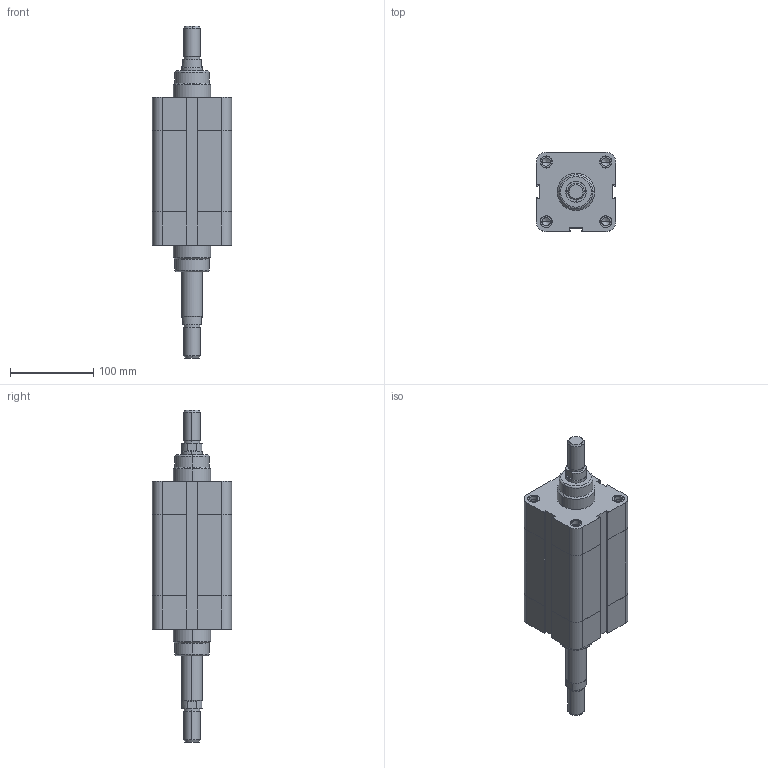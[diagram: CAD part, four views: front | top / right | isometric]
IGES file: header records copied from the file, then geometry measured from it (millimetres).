
Global section: file name: No Iges File Name specified; native system: AutoDesk Inventor R6.1; preprocessor: AutoDesk Inventor Iges Exporter R6.1; author: No Author specified; organization: No Organization specified; date: 20040107.171113; units: millimetre
Bounding box: 95.5 x 95.5 x 400 mm (x, y, z)
Volume: 1694988.7 mm3; surface area: 159282.5 mm2
Topology: 2 solids, 2 shells, 236 faces, 564 edges, 356 vertices
Faces by surface type: plane 80, bspline 62, cylinder 42, revolution 32, cone 16, torus 4
